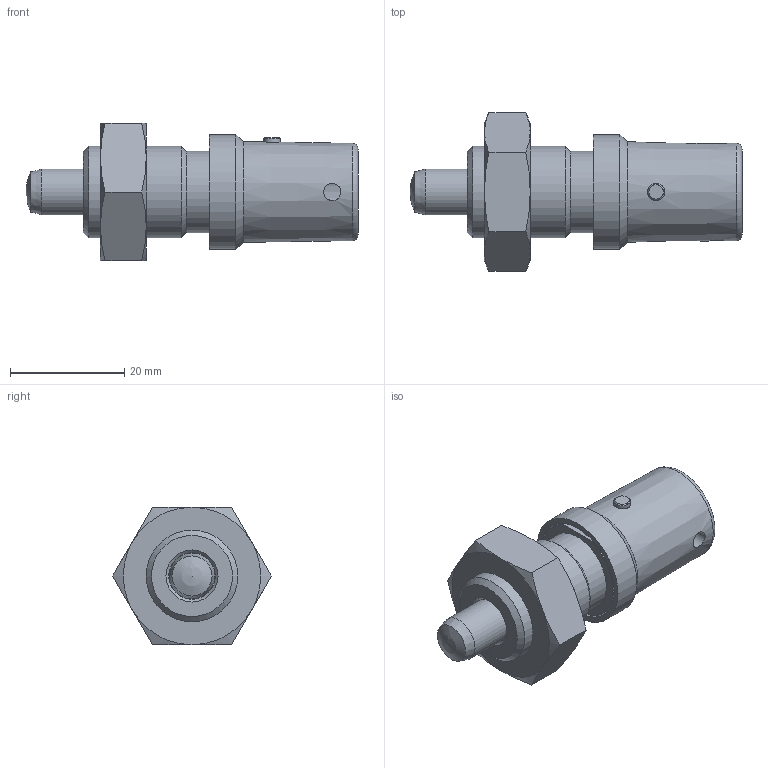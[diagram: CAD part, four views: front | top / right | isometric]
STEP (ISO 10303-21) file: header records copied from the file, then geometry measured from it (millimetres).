
FILE_DESCRIPTION( ( 'STEP AP203' ), '1' );
FILE_NAME( 'C:/Temp/Ganter_Step_05_03_2020/data/3_1/gn816_1/gn_816_1_bk/Locking plunger GN 816.1-8-M16x1,5-BK (activated).stp', '2020-03-12T08:56:22', ( 'License CC BY-ND 4.0' ), ( 'CADENAS' ), ' ', 'PARTsolutions', ' ' );
FILE_SCHEMA( ( 'CONFIG_CONTROL_DESIGN' ) );
Length unit declared in the file: millimetre
Products named in the file (4): Locking plunger GN 816.1-8-M16x1,5-BK (activated); _GN 816.1-8-M16x1,5-B(1)-b2; _GN 816.1-8-M16x1,5-Bb1; _Lock nut ISO 8675 GN 816-8-M16x1,5-AK
Assembly tree (3 placements, depth 2):
  Locking plunger GN 816.1-8-M16x1,5-BK (activated)
    _GN 816.1-8-M16x1,5-B(1)-b2
    _GN 816.1-8-M16x1,5-Bb1
    _Lock nut ISO 8675 GN 816-8-M16x1,5-AK
Bounding box: 58 x 27.71 x 24 mm (x, y, z)
Volume: 11485.9 mm3; surface area: 8181.4 mm2
Topology: 3 solids, 3 shells, 66 faces, 134 edges, 80 vertices
Faces by surface type: cone 27, plane 20, cylinder 16, torus 2, sphere 1
Full cylindrical faces by diameter (mm): 2.9 x2, 3 x2, 7 x1, 8 x1, 8.1 x1, 11 x1, 11.1 x1, 14.2 x1, 14.376 x1, 16 x1, 18 x1, 20 x1
Entity records: 2057 total; most frequent: CARTESIAN_POINT 705, DIRECTION 258, ORIENTED_EDGE 194, AXIS2_PLACEMENT_3D 123, EDGE_LOOP 112, EDGE_CURVE 97, FACE_OUTER_BOUND 82, VERTEX_POINT 76
